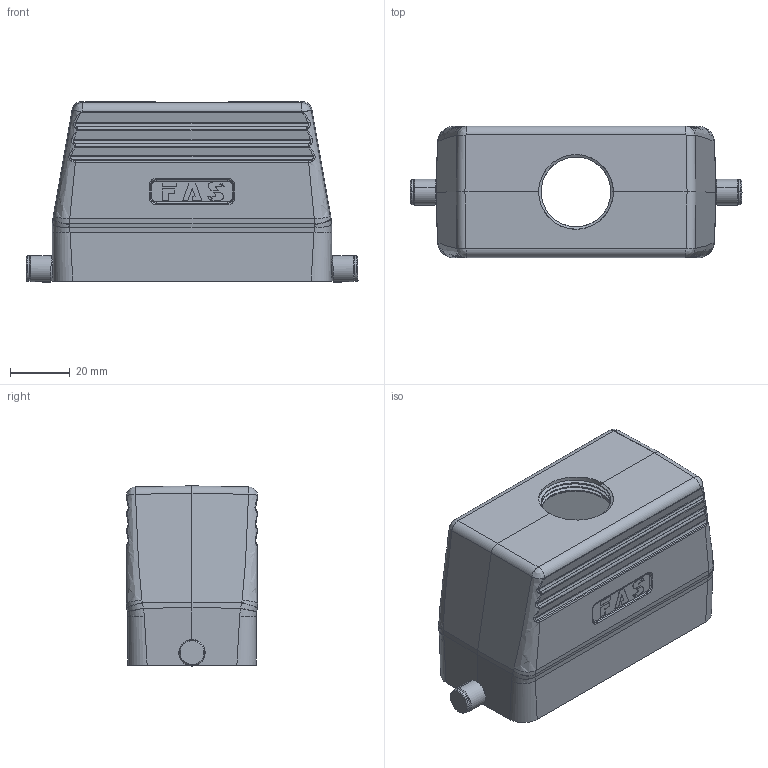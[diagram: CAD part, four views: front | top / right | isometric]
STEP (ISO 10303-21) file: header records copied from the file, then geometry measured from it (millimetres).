
FILE_DESCRIPTION (( 'STEP AP203' ), '1' );
FILE_NAME ('H16B-TG-RO-M25&32.STEP', '2020-11-21T05:42:09', ( '' ), ( '' ), 'SwSTEP 2.0', 'SolidWorks 2016', '' );
FILE_SCHEMA (( 'CONFIG_CONTROL_DESIGN' ));
Length unit declared in the file: millimetre
Products named in the file (4): PRT0001; PRT0004; H16B-TG-RO-M25 奻褲; H16B-TG-RO-M25&32
Assembly tree (5 placements, depth 2):
  H16B-TG-RO-M25&32
    H16B-TG-RO-M25 奻褲
    PRT0001  x2
    PRT0004  x2
Bounding box: 111.17 x 44 x 60.35 mm (x, y, z)
Volume: 73568.3 mm3; surface area: 35938.2 mm2
Topology: 5 solids, 5 shells, 564 faces, 1345 edges, 819 vertices
Faces by surface type: plane 180, cylinder 177, bspline 151, cone 56
Entity records: 24368 total; most frequent: CARTESIAN_POINT 12920, ORIENTED_EDGE 2558, DIRECTION 1886, EDGE_CURVE 1279, VERTEX_POINT 777, AXIS2_PLACEMENT_3D 654, LINE 578, VECTOR 578
